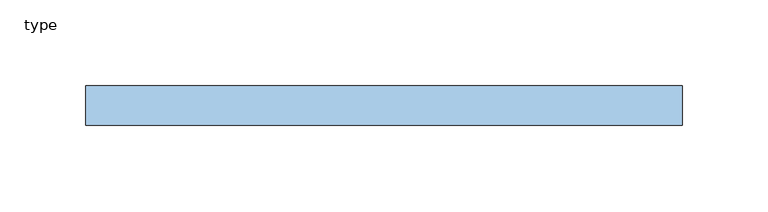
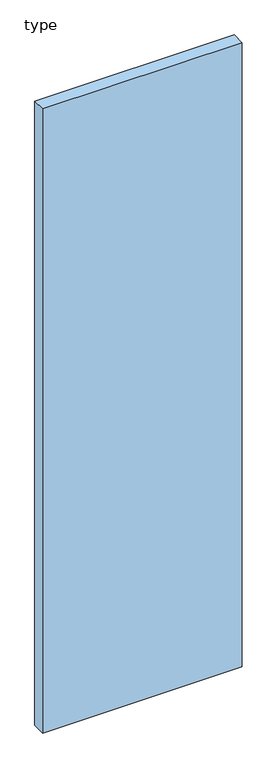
"""IFC4 building model written with IfcOpenShell, lengths in millimetres: window geometry, NLRS_30_MC_glas_isolerend_vast : type."""

from ifc_helpers import new_model, si_unit, frame, origin, place, context, project, spatial, polyline, outline, extrude, source, transform, mapped, element, save


def type_0a3f7664(model_context):
    return source(origin(), model_context, "Body", "SweptSolid", [
        extrude(outline(polyline([(-173.5, 27.0), (173.5, 27.0), (173.5, 4.0), (-173.5, 4.0), (-173.5, 27.0)])), frame((0.0, 0.0, 7.0), z_axis=(0.0, 0.0, 1.0), x_axis=(1.0, 0.0, 0.0)), (0.0, 0.0, 1.0), 1146.4),
    ])


if __name__ == "__main__":
    model = new_model("IFC4")
    model_context = context("Model", 3, world=origin())
    ifc_project = project(units=[si_unit("LENGTHUNIT", "METRE", prefix="MILLI")], contexts=[model_context])
    site = spatial("IfcSite", under=ifc_project)
    building = spatial("IfcBuilding", under=site)
    placement = place(None, origin())
    ifc_type_shape = type_0a3f7664(model_context)
    element("IfcWindow", 1, ObjectType="NLRS_30_MC_glas_isolerend_vast : type", at=placement, inside=building, context=model_context, shape_type="MappedRepresentation", body=[
        mapped(ifc_type_shape, transform((0.0, 0.0, 0.0), x_axis=(1.0, 0.0, 0.0), y_axis=(0.0, 1.0, 0.0), z_axis=(0.0, 0.0, 1.0))),
    ])
    save(model, "model.ifc")
